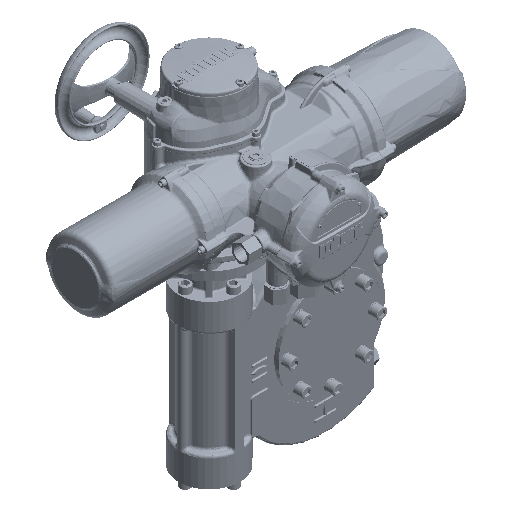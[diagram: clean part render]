
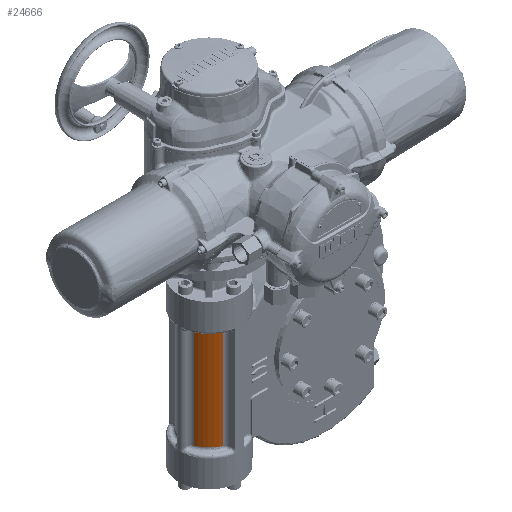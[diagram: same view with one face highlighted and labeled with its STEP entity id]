
A CAD part, isometric view. The second image highlights one B-rep face of the part: STEP entity #24666.
In plain terms, the highlighted cylindrical face has radius 55 mm (diameter 110 mm), a partial arc.
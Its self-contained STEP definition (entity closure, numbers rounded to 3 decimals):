
#24666 = ADVANCED_FACE( '', ( #50487 ), #50488, .T. );
#50487 = FACE_OUTER_BOUND( '', #353715, .T. );
#50488 = CYLINDRICAL_SURFACE( '', #353716, 55. );
#353715 = EDGE_LOOP( '', ( #439094, #439095, #439096, #439097 ) );
#353716 = AXIS2_PLACEMENT_3D( '', #439098, #439099, #439100 );
#439094 = ORIENTED_EDGE( '', *, *, #463621, .T. );
#439095 = ORIENTED_EDGE( '', *, *, #463979, .T. );
#439096 = ORIENTED_EDGE( '', *, *, #448195, .F. );
#439097 = ORIENTED_EDGE( '', *, *, #462755, .T. );
#439098 = CARTESIAN_POINT( '', ( 0., 15., -587.69 ) );
#439099 = DIRECTION( '', ( 0., 0., 1. ) );
#439100 = DIRECTION( '', ( 0., -1., 0. ) );
#448195 = EDGE_CURVE( '', #481410, #481411, #481412, .T. );
#462755 = EDGE_CURVE( '', #481410, #489929, #502700, .F. );
#463621 = EDGE_CURVE( '', #489929, #503383, #503767, .T. );
#463979 = EDGE_CURVE( '', #503383, #481411, #504206, .T. );
#481410 = VERTEX_POINT( '', #567217 );
#481411 = VERTEX_POINT( '', #567218 );
#481412 = CIRCLE( '', #567219, 55. );
#489929 = VERTEX_POINT( '', #609184 );
#502700 = LINE( '', #671364, #671365 );
#503383 = VERTEX_POINT( '', #674703 );
#503767 = CIRCLE( '', #676468, 55. );
#504206 = LINE( '', #678869, #678870 );
#567217 = CARTESIAN_POINT( '', ( -19.111, -36.573, -523.69 ) );
#567218 = CARTESIAN_POINT( '', ( -52.356, -1.849, -523.69 ) );
#567219 = AXIS2_PLACEMENT_3D( '', #716794, #716795, #716796 );
#609184 = CARTESIAN_POINT( '', ( -19.111, -36.573, -297.69 ) );
#671364 = CARTESIAN_POINT( '', ( -19.111, -36.573, -587.69 ) );
#671365 = VECTOR( '', #730847, 1000. );
#674703 = CARTESIAN_POINT( '', ( -52.356, -1.849, -297.69 ) );
#676468 = AXIS2_PLACEMENT_3D( '', #731594, #731595, #731596 );
#678869 = CARTESIAN_POINT( '', ( -52.356, -1.849, -587.69 ) );
#678870 = VECTOR( '', #731856, 1000. );
#716794 = CARTESIAN_POINT( '', ( 0., 15., -523.69 ) );
#716795 = DIRECTION( '', ( 0., 0., -1. ) );
#716796 = DIRECTION( '', ( 0., -1., 0. ) );
#730847 = DIRECTION( '', ( 0., 0., -1. ) );
#731594 = CARTESIAN_POINT( '', ( 0., 15., -297.69 ) );
#731595 = DIRECTION( '', ( 0., 0., -1. ) );
#731596 = DIRECTION( '', ( 0., -1., 0. ) );
#731856 = DIRECTION( '', ( 0., 0., -1. ) );
